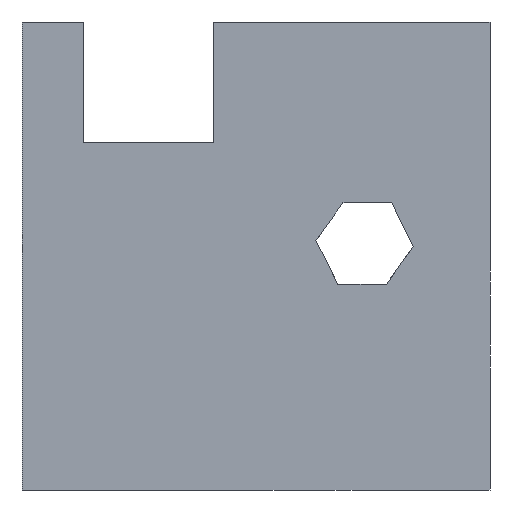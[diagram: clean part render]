
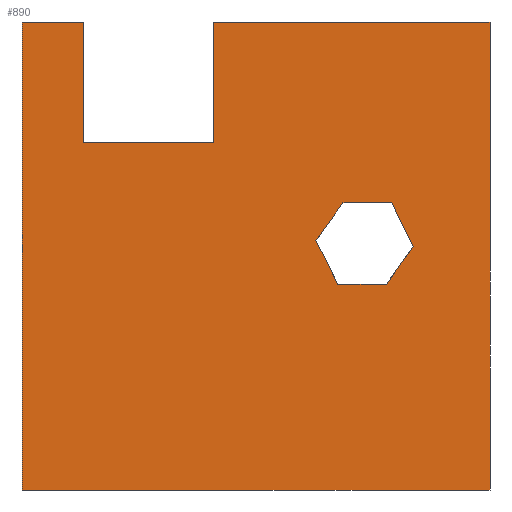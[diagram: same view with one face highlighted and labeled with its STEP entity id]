
A CAD part, front view. The second image highlights one B-rep face of the part: STEP entity #890.
In plain terms, the highlighted planar face has unit normal (0, -1, 0).
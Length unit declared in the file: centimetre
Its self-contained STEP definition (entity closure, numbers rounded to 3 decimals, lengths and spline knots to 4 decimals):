
#4 = DIRECTION ( 'NONE',  ( 1., 0., 0. ) ) ;
#12 = VERTEX_POINT ( 'NONE', #942 ) ;
#34 = LINE ( 'NONE', #266, #1079 ) ;
#36 = VERTEX_POINT ( 'NONE', #107 ) ;
#41 = CARTESIAN_POINT ( 'NONE',  ( 408.3913, 0., 743.0541 ) ) ;
#46 = VECTOR ( 'NONE', #859, 100. ) ;
#61 = ORIENTED_EDGE ( 'NONE', *, *, #680, .F. ) ;
#63 = DIRECTION ( 'NONE',  ( 0., 0., -1. ) ) ;
#74 = VECTOR ( 'NONE', #4, 100. ) ;
#75 = CARTESIAN_POINT ( 'NONE',  ( 0., 0., 1000. ) ) ;
#78 = ORIENTED_EDGE ( 'NONE', *, *, #656, .F. ) ;
#87 = LINE ( 'NONE', #498, #491 ) ;
#107 = CARTESIAN_POINT ( 'NONE',  ( 1000., 0., 1000. ) ) ;
#121 = CARTESIAN_POINT ( 'NONE',  ( 130.4693, 0., 743.0541 ) ) ;
#123 = PLANE ( 'NONE',  #373 ) ;
#142 = LINE ( 'NONE', #1075, #868 ) ;
#145 = EDGE_CURVE ( 'NONE', #847, #431, #34, .T. ) ;
#150 = DIRECTION ( 'NONE',  ( -0.584, 0., -0.812 ) ) ;
#174 = VERTEX_POINT ( 'NONE', #676 ) ;
#208 = CARTESIAN_POINT ( 'NONE',  ( 674.468, 0., 439.7977 ) ) ;
#211 = VECTOR ( 'NONE', #695, 100. ) ;
#228 = ORIENTED_EDGE ( 'NONE', *, *, #903, .F. ) ;
#230 = DIRECTION ( 'NONE',  ( 1., 0., 0. ) ) ;
#232 = CARTESIAN_POINT ( 'NONE',  ( 0., 0., 1000. ) ) ;
#266 = CARTESIAN_POINT ( 'NONE',  ( 685.8733, 0., 613.5719 ) ) ;
#305 = VECTOR ( 'NONE', #949, 100. ) ;
#310 = FACE_OUTER_BOUND ( 'NONE', #644, .T. ) ;
#332 = EDGE_CURVE ( 'NONE', #363, #1111, #932, .T. ) ;
#334 = LINE ( 'NONE', #1161, #1033 ) ;
#343 = ORIENTED_EDGE ( 'NONE', *, *, #1153, .F. ) ;
#354 = VECTOR ( 'NONE', #230, 100. ) ;
#363 = VERTEX_POINT ( 'NONE', #1055 ) ;
#366 = DIRECTION ( 'NONE',  ( 1., 0., 0. ) ) ;
#372 = ORIENTED_EDGE ( 'NONE', *, *, #879, .F. ) ;
#373 = AXIS2_PLACEMENT_3D ( 'NONE', #232, #739, #533 ) ;
#379 = CARTESIAN_POINT ( 'NONE',  ( 1000., 0., 1000. ) ) ;
#402 = VECTOR ( 'NONE', #366, 100. ) ;
#431 = VERTEX_POINT ( 'NONE', #1340 ) ;
#435 = LINE ( 'NONE', #1255, #538 ) ;
#443 = CARTESIAN_POINT ( 'NONE',  ( 685.8733, 0., 613.5719 ) ) ;
#450 = FACE_BOUND ( 'NONE', #559, .T. ) ;
#452 = VERTEX_POINT ( 'NONE', #469 ) ;
#469 = CARTESIAN_POINT ( 'NONE',  ( 836.3661, 0., 520.0999 ) ) ;
#491 = VECTOR ( 'NONE', #913, 100. ) ;
#498 = CARTESIAN_POINT ( 'NONE',  ( 778.5983, 0., 439.7977 ) ) ;
#506 = ORIENTED_EDGE ( 'NONE', *, *, #638, .F. ) ;
#527 = ORIENTED_EDGE ( 'NONE', *, *, #861, .F. ) ;
#533 = DIRECTION ( 'NONE',  ( 0., 0., 1. ) ) ;
#538 = VECTOR ( 'NONE', #851, 100. ) ;
#539 = LINE ( 'NONE', #737, #354 ) ;
#559 = EDGE_LOOP ( 'NONE', ( #372, #506, #634, #61, #527, #1208 ) ) ;
#567 = EDGE_CURVE ( 'NONE', #1163, #667, #1101, .T. ) ;
#580 = VECTOR ( 'NONE', #1321, 100. ) ;
#592 = EDGE_CURVE ( 'NONE', #835, #452, #87, .T. ) ;
#633 = LINE ( 'NONE', #121, #305 ) ;
#634 = ORIENTED_EDGE ( 'NONE', *, *, #592, .F. ) ;
#635 = LINE ( 'NONE', #41, #46 ) ;
#636 = CARTESIAN_POINT ( 'NONE',  ( 674.468, 0., 439.7977 ) ) ;
#638 = EDGE_CURVE ( 'NONE', #452, #12, #996, .T. ) ;
#640 = CARTESIAN_POINT ( 'NONE',  ( 0., 0., 1000. ) ) ;
#644 = EDGE_LOOP ( 'NONE', ( #343, #867, #1314, #1135, #1139, #78, #1248, #228 ) ) ;
#651 = CARTESIAN_POINT ( 'NONE',  ( 778.5983, 0., 439.7977 ) ) ;
#656 = EDGE_CURVE ( 'NONE', #36, #1111, #808, .T. ) ;
#663 = LINE ( 'NONE', #975, #402 ) ;
#667 = VERTEX_POINT ( 'NONE', #711 ) ;
#676 = CARTESIAN_POINT ( 'NONE',  ( 130.4693, 0., 743.0541 ) ) ;
#680 = EDGE_CURVE ( 'NONE', #891, #835, #741, .T. ) ;
#695 = DIRECTION ( 'NONE',  ( 0., 0., -1. ) ) ;
#711 = CARTESIAN_POINT ( 'NONE',  ( 130.4693, 0., 1000. ) ) ;
#724 = CARTESIAN_POINT ( 'NONE',  ( 0., 0., 0. ) ) ;
#737 = CARTESIAN_POINT ( 'NONE',  ( 130.4693, 0., 743.0541 ) ) ;
#739 = DIRECTION ( 'NONE',  ( 0., 1., 0. ) ) ;
#741 = LINE ( 'NONE', #636, #1029 ) ;
#808 = LINE ( 'NONE', #379, #211 ) ;
#835 = VERTEX_POINT ( 'NONE', #651 ) ;
#836 = DIRECTION ( 'NONE',  ( -1., 0., 0. ) ) ;
#847 = VERTEX_POINT ( 'NONE', #443 ) ;
#849 = CARTESIAN_POINT ( 'NONE',  ( 408.3913, 0., 743.0541 ) ) ;
#850 = VERTEX_POINT ( 'NONE', #1063 ) ;
#851 = DIRECTION ( 'NONE',  ( 0.444, 0., -0.896 ) ) ;
#859 = DIRECTION ( 'NONE',  ( 0., 0., 1. ) ) ;
#861 = EDGE_CURVE ( 'NONE', #431, #891, #435, .T. ) ;
#867 = ORIENTED_EDGE ( 'NONE', *, *, #1189, .F. ) ;
#868 = VECTOR ( 'NONE', #63, 100. ) ;
#871 = DIRECTION ( 'NONE',  ( 1., 0., 0. ) ) ;
#879 = EDGE_CURVE ( 'NONE', #12, #847, #334, .T. ) ;
#890 = ADVANCED_FACE ( 'NONE', ( #450, #310 ), #123, .F. ) ;
#891 = VERTEX_POINT ( 'NONE', #208 ) ;
#892 = CARTESIAN_POINT ( 'NONE',  ( 836.3661, 0., 520.0999 ) ) ;
#903 = EDGE_CURVE ( 'NONE', #1183, #850, #635, .T. ) ;
#913 = DIRECTION ( 'NONE',  ( 0.584, 0., 0.812 ) ) ;
#932 = LINE ( 'NONE', #724, #74 ) ;
#942 = CARTESIAN_POINT ( 'NONE',  ( 790.0036, 0., 613.5719 ) ) ;
#949 = DIRECTION ( 'NONE',  ( 0., 0., -1. ) ) ;
#975 = CARTESIAN_POINT ( 'NONE',  ( 0., 0., 1000. ) ) ;
#995 = VECTOR ( 'NONE', #1013, 100. ) ;
#996 = LINE ( 'NONE', #892, #580 ) ;
#1013 = DIRECTION ( 'NONE',  ( 1., 0., 0. ) ) ;
#1020 = CARTESIAN_POINT ( 'NONE',  ( 1000., 0., 0. ) ) ;
#1029 = VECTOR ( 'NONE', #871, 100. ) ;
#1033 = VECTOR ( 'NONE', #836, 100. ) ;
#1055 = CARTESIAN_POINT ( 'NONE',  ( 0., 0., 0. ) ) ;
#1063 = CARTESIAN_POINT ( 'NONE',  ( 408.3913, 0., 1000. ) ) ;
#1075 = CARTESIAN_POINT ( 'NONE',  ( 0., 0., 1000. ) ) ;
#1079 = VECTOR ( 'NONE', #150, 100. ) ;
#1101 = LINE ( 'NONE', #75, #995 ) ;
#1111 = VERTEX_POINT ( 'NONE', #1020 ) ;
#1135 = ORIENTED_EDGE ( 'NONE', *, *, #1263, .T. ) ;
#1139 = ORIENTED_EDGE ( 'NONE', *, *, #332, .T. ) ;
#1153 = EDGE_CURVE ( 'NONE', #174, #1183, #539, .T. ) ;
#1161 = CARTESIAN_POINT ( 'NONE',  ( 790.0036, 0., 613.5719 ) ) ;
#1163 = VERTEX_POINT ( 'NONE', #640 ) ;
#1183 = VERTEX_POINT ( 'NONE', #849 ) ;
#1189 = EDGE_CURVE ( 'NONE', #667, #174, #633, .T. ) ;
#1208 = ORIENTED_EDGE ( 'NONE', *, *, #145, .F. ) ;
#1248 = ORIENTED_EDGE ( 'NONE', *, *, #1306, .F. ) ;
#1255 = CARTESIAN_POINT ( 'NONE',  ( 628.1055, 0., 533.2696 ) ) ;
#1263 = EDGE_CURVE ( 'NONE', #1163, #363, #142, .T. ) ;
#1306 = EDGE_CURVE ( 'NONE', #850, #36, #663, .T. ) ;
#1314 = ORIENTED_EDGE ( 'NONE', *, *, #567, .F. ) ;
#1321 = DIRECTION ( 'NONE',  ( -0.444, 0., 0.896 ) ) ;
#1340 = CARTESIAN_POINT ( 'NONE',  ( 628.1055, 0., 533.2696 ) ) ;
